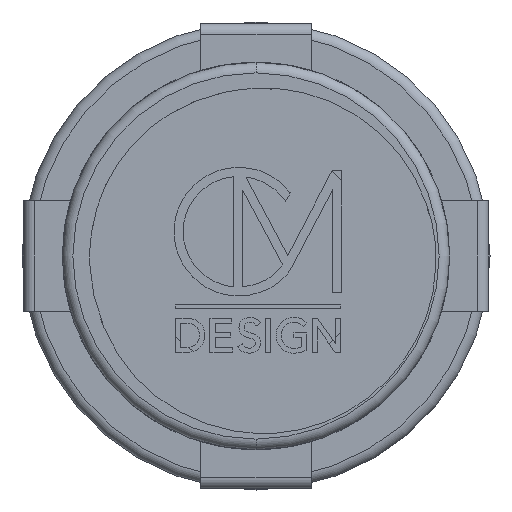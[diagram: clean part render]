
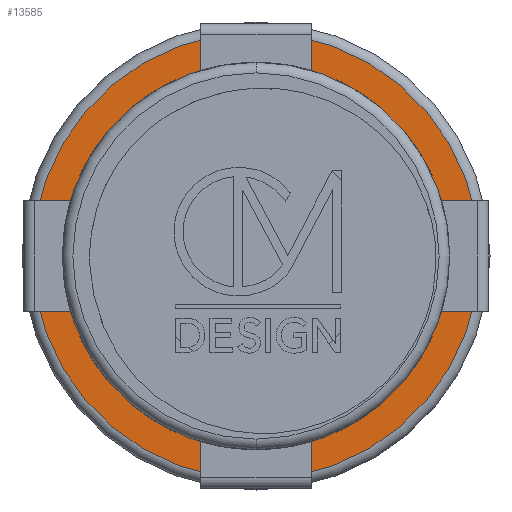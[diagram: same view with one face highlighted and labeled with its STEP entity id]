
A CAD part, front view. The second image highlights one B-rep face of the part: STEP entity #13585.
In plain terms, the highlighted planar face has unit normal (0, -1, 0).
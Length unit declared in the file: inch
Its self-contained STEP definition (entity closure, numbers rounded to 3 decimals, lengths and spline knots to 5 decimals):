
#685 = DIRECTION ( 'NONE',  ( 0., -1., 0. ) ) ;
#755 = EDGE_LOOP ( 'NONE', ( #10077, #11187 ) ) ;
#1086 = AXIS2_PLACEMENT_3D ( 'NONE', #11401, #12454, #11620 ) ;
#1177 = PLANE ( 'NONE',  #11633 ) ;
#1397 = CARTESIAN_POINT ( 'NONE',  ( -1.10438, 1.63465, 0. ) ) ;
#2103 = CIRCLE ( 'NONE', #6403, 0.59375 ) ;
#2517 = CIRCLE ( 'NONE', #5163, 1.05438 ) ;
#2612 = ORIENTED_EDGE ( 'NONE', *, *, #13254, .T. ) ;
#2638 = EDGE_CURVE ( 'NONE', #14064, #11843, #2103, .T. ) ;
#2696 = CARTESIAN_POINT ( 'NONE',  ( 0., 1.63465, 0. ) ) ;
#2714 = CARTESIAN_POINT ( 'NONE',  ( 0., 1.63465, 0. ) ) ;
#3071 = CIRCLE ( 'NONE', #6400, 1.05438 ) ;
#3368 = DIRECTION ( 'NONE',  ( 0., 1., 0. ) ) ;
#3505 = FACE_BOUND ( 'NONE', #755, .T. ) ;
#4036 = DIRECTION ( 'NONE',  ( 0., -1., 0. ) ) ;
#4660 = VERTEX_POINT ( 'NONE', #8063 ) ;
#4757 = EDGE_CURVE ( 'NONE', #11443, #4660, #2517, .T. ) ;
#5163 = AXIS2_PLACEMENT_3D ( 'NONE', #6339, #4036, #12996 ) ;
#5353 = CARTESIAN_POINT ( 'NONE',  ( 0., 1.63465, -1.05438 ) ) ;
#6180 = CARTESIAN_POINT ( 'NONE',  ( 0., 1.63465, -0.59375 ) ) ;
#6339 = CARTESIAN_POINT ( 'NONE',  ( 0., 1.63465, 0. ) ) ;
#6400 = AXIS2_PLACEMENT_3D ( 'NONE', #2696, #10692, #14133 ) ;
#6403 = AXIS2_PLACEMENT_3D ( 'NONE', #2714, #685, #11980 ) ;
#7782 = CIRCLE ( 'NONE', #1086, 0.59375 ) ;
#8063 = CARTESIAN_POINT ( 'NONE',  ( 0., 1.63465, 1.05438 ) ) ;
#8755 = CARTESIAN_POINT ( 'NONE',  ( 0., 1.63465, 0.59375 ) ) ;
#10077 = ORIENTED_EDGE ( 'NONE', *, *, #14538, .F. ) ;
#10225 = DIRECTION ( 'NONE',  ( 0., 0., 1. ) ) ;
#10692 = DIRECTION ( 'NONE',  ( 0., -1., 0. ) ) ;
#10787 = ORIENTED_EDGE ( 'NONE', *, *, #4757, .T. ) ;
#11187 = ORIENTED_EDGE ( 'NONE', *, *, #2638, .F. ) ;
#11401 = CARTESIAN_POINT ( 'NONE',  ( 0., 1.63465, 0. ) ) ;
#11443 = VERTEX_POINT ( 'NONE', #5353 ) ;
#11620 = DIRECTION ( 'NONE',  ( 0., 0., -1. ) ) ;
#11633 = AXIS2_PLACEMENT_3D ( 'NONE', #1397, #3368, #10225 ) ;
#11843 = VERTEX_POINT ( 'NONE', #6180 ) ;
#11980 = DIRECTION ( 'NONE',  ( 0., 0., -1. ) ) ;
#12454 = DIRECTION ( 'NONE',  ( 0., -1., 0. ) ) ;
#12690 = FACE_OUTER_BOUND ( 'NONE', #13408, .T. ) ;
#12996 = DIRECTION ( 'NONE',  ( 0., 0., 1. ) ) ;
#13254 = EDGE_CURVE ( 'NONE', #4660, #11443, #3071, .T. ) ;
#13408 = EDGE_LOOP ( 'NONE', ( #2612, #10787 ) ) ;
#13585 = ADVANCED_FACE ( 'NONE', ( #12690, #3505 ), #1177, .F. ) ;
#14064 = VERTEX_POINT ( 'NONE', #8755 ) ;
#14133 = DIRECTION ( 'NONE',  ( 0., 0., 1. ) ) ;
#14538 = EDGE_CURVE ( 'NONE', #11843, #14064, #7782, .T. ) ;
